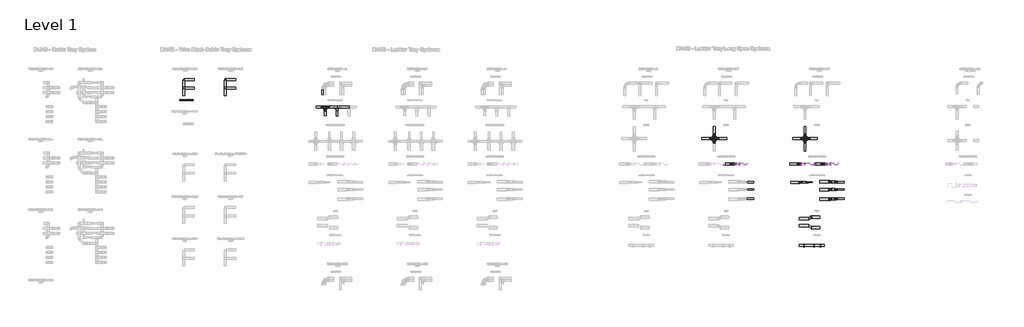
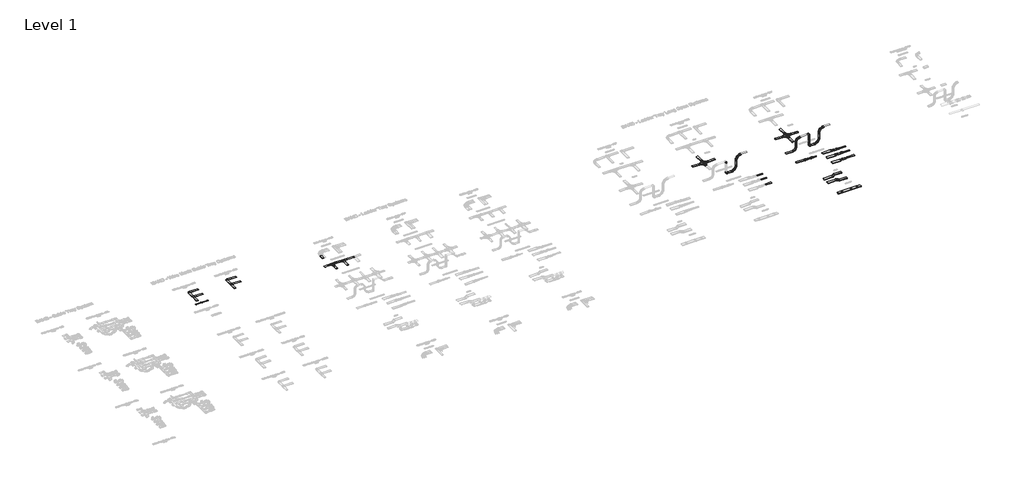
# One storey, part 16 of 106: 62 cable carrier fittings, 58 cable carrier segments.
"""IFC4 building model written with IfcOpenShell, lengths in millimetres."""

from ifc_helpers import new_model, si_unit, frame, origin, origin_with_axes, place, context, project, spatial, polyline, outline, extrude, transform, mapped, element, save
from components import cable_carrier_fitting_b6827417, cable_carrier_fitting_2209817d, cable_carrier_fitting_2d894193, cable_carrier_fitting_0f11f104, cable_carrier_fitting_d30d66bc, cable_carrier_fitting_a9217249, cable_carrier_fitting_737cec81, cable_carrier_fitting_2a48b0f8, cable_carrier_fitting_b442654d, cable_carrier_fitting_4f3da76f, cable_carrier_fitting_9a2a8d5e, cable_carrier_fitting_043f85b0, cable_carrier_fitting_eae05feb, cable_carrier_fitting_052320e9, cable_carrier_fitting_d10d1ab3, cable_carrier_fitting_8b2eacbc, cable_carrier_fitting_82eef748, cable_carrier_fitting_c717f408, cable_carrier_fitting_2eae5a0e, cable_carrier_fitting_3ae1bb04, cable_carrier_fitting_b51c3b06, cable_carrier_fitting_2cd7f75b, cable_carrier_fitting_ef2239ab, cable_carrier_fitting_4f7538c2, cable_carrier_fitting_ecbd1058, cable_carrier_fitting_5c8b0443, cable_carrier_fitting_7d25663b, cable_carrier_fitting_9e888601, cable_carrier_fitting_4b9ec148, cable_carrier_fitting_a95698cb, cable_carrier_fitting_26a6f095, cable_carrier_fitting_3c9c408d, cable_carrier_fitting_75b1d624, cable_carrier_fitting_566616c6, lzs35_h35_88049798, lzs50_h35_31d5a90a

model = new_model("IFC4")

# Units and contexts
model_context = context("Model", 3, world=origin())
ifc_project = project(units=[si_unit("LENGTHUNIT", "METRE", prefix="MILLI")], contexts=[model_context])

# Site, building, storey
site = spatial("IfcSite", under=ifc_project)
building = spatial("IfcBuilding", under=site)
storey = spatial("IfcBuildingStorey", under=building, Name="Level 1", Elevation=0.0)

# Cable carrier fittings
placement = place(None, origin())
cable_carrier_fitting_shape = cable_carrier_fitting_b6827417(model_context)
element("IfcCableCarrierFitting", 1, ObjectType="BAKS_Mesh horizontal bend : KKSZ_H35", at=placement, inside=storey, context=model_context, shape_type="MappedRepresentation", body=[
    mapped(cable_carrier_fitting_shape, transform((12269.4167945, 69870.1887189, 17.5), x_axis=(-1.0, 0.0, 0.0), y_axis=(0.0, -1.0, 0.0), z_axis=(0.0, 0.0, 1.0))),
])
element("IfcCableCarrierFitting", 2, ObjectType="BAKS_Mesh horizontal bend : KKSZ_H35", at=placement, inside=storey, context=model_context, shape_type="MappedRepresentation", body=[
    mapped(cable_carrier_fitting_shape, transform((5569.4167945, 69870.1887189, 17.5), x_axis=(-1.0, 0.0, 0.0), y_axis=(0.0, -1.0, 0.0), z_axis=(0.0, 0.0, 1.0))),
])
cable_carrier_fitting_2_shape = cable_carrier_fitting_2209817d(model_context)
element("IfcCableCarrierFitting", 3, ObjectType="BAKS_Mesh horizontal tee : TKSZ_H35", at=placement, inside=storey, context=model_context, shape_type="MappedRepresentation", body=[
    mapped(cable_carrier_fitting_2_shape, transform((5569.4167945, 68493.1012189, 17.5), x_axis=(0.0, 1.0, 0.0), y_axis=(-1.0, 0.0, 0.0), z_axis=(0.0, 0.0, 1.0))),
])
element("IfcCableCarrierFitting", 4, ObjectType="BAKS_Mesh horizontal tee : TKSZ_H35", at=placement, inside=storey, context=model_context, shape_type="MappedRepresentation", body=[
    mapped(cable_carrier_fitting_2_shape, transform((12269.4167945, 68493.1012189, 17.5), x_axis=(0.0, 1.0, 0.0), y_axis=(-1.0, 0.0, 0.0), z_axis=(0.0, 0.0, 1.0))),
])
cable_carrier_fitting_3_shape = cable_carrier_fitting_2d894193(model_context)
element("IfcCableCarrierFitting", 5, ObjectType="BAKS_LD_CONN_Angle coupler bendable_LKU : LKUP_H45", at=placement, inside=storey, context=model_context, shape_type="MappedRepresentation", body=[
    mapped(cable_carrier_fitting_3_shape, transform((30180.7849338, 65255.924016, 32.5), x_axis=(1.0, 0.0, 0.0), y_axis=(0.0, 1.0, 0.0), z_axis=(0.0, 0.0, 1.0))),
])
element("IfcCableCarrierFitting", 6, ObjectType="BAKS_LD_CONN_Angle coupler bendable_LKU : LKUP_H45", at=placement, inside=storey, context=model_context, shape_type="MappedRepresentation", body=[
    mapped(cable_carrier_fitting_3_shape, transform((30480.7849338, 65255.924016, 32.5), x_axis=(0.0, 1.0, 0.0), y_axis=(-1.0, 0.0, 0.0), z_axis=(0.0, 0.0, 1.0))),
])
cable_carrier_fitting_4_shape = cable_carrier_fitting_0f11f104(model_context)
element("IfcCableCarrierFitting", 7, ObjectType="BAKS_LD_CONN_Addon connector_LDDK : LDDKP", at=placement, inside=storey, context=model_context, shape_type="MappedRepresentation", body=[
    mapped(cable_carrier_fitting_4_shape, transform((30180.7849338, 65255.924016, 55.0), x_axis=(1.0, 0.0, 0.0), y_axis=(0.0, 1.0, 0.0), z_axis=(0.0, 0.0, 1.0))),
])
cable_carrier_fitting_5_shape = cable_carrier_fitting_d30d66bc(model_context)
element("IfcCableCarrierFitting", 8, ObjectType="BAKS_LD_TEE_Ladder horizontal tee_TD : TDP_H45", at=placement, inside=storey, context=model_context, shape_type="MappedRepresentation", body=[
    mapped(cable_carrier_fitting_5_shape, transform((28402.3039726, 65405.924016, 55.0), x_axis=(1.0, 0.0, 0.0), y_axis=(0.0, 1.0, 0.0), z_axis=(0.0, 0.0, 1.0))),
])
cable_carrier_fitting_6_shape = cable_carrier_fitting_a9217249(model_context)
element("IfcCableCarrierFitting", 9, ObjectType="BAKS_LD_CONN_Addon connector_LDDK : LDDKP", at=placement, inside=storey, context=model_context, shape_type="MappedRepresentation", body=[
    mapped(cable_carrier_fitting_6_shape, transform((30480.7849338, 65255.924016, 55.0), x_axis=(-1.0, 0.0, 0.0), y_axis=(0.0, -1.0, 0.0), z_axis=(0.0, 0.0, 1.0))),
])
cable_carrier_fitting_7_shape = cable_carrier_fitting_737cec81(model_context)
element("IfcCableCarrierFitting", 10, ObjectType="BAKS_LDLS_CONN_Straight connector_LSSU : LSSUC_H100", at=placement, inside=storey, context=model_context, shape_type="MappedRepresentation", body=[
    mapped(cable_carrier_fitting_7_shape, transform((105835.3508196, 42822.0684511, 55.0), x_axis=(1.0, 0.0, 0.0), y_axis=(0.0, 1.0, 0.0), z_axis=(0.0, 0.0, 1.0))),
])
element("IfcCableCarrierFitting", 11, ObjectType="BAKS_LDLS_CONN_Straight connector_LSSU : LSSUC_H100", at=placement, inside=storey, context=model_context, shape_type="MappedRepresentation", body=[
    mapped(cable_carrier_fitting_7_shape, transform((107422.8508196, 42822.0684511, 55.0), x_axis=(1.0, 0.0, 0.0), y_axis=(0.0, 1.0, 0.0), z_axis=(0.0, 0.0, 1.0))),
])
element("IfcCableCarrierFitting", 12, ObjectType="BAKS_LDLS_CONN_Straight connector_LSSU : LSSUC_H100", at=placement, inside=storey, context=model_context, shape_type="MappedRepresentation", body=[
    mapped(cable_carrier_fitting_7_shape, transform((108515.3508196, 42822.0684511, 55.0), x_axis=(1.0, 0.0, 0.0), y_axis=(0.0, 1.0, 0.0), z_axis=(0.0, 0.0, 1.0))),
])
cable_carrier_fitting_8_shape = cable_carrier_fitting_2a48b0f8(model_context)
element("IfcCableCarrierFitting", 13, ObjectType="BAKS_LDLS_CONN_Straight connector_LSSU : LSSUC_H100", at=placement, inside=storey, context=model_context, shape_type="MappedRepresentation", body=[
    mapped(cable_carrier_fitting_8_shape, transform((105835.3508196, 43222.0684511, 55.0), x_axis=(1.0, 0.0, 0.0), y_axis=(0.0, 1.0, 0.0), z_axis=(0.0, 0.0, 1.0))),
])
element("IfcCableCarrierFitting", 14, ObjectType="BAKS_LDLS_CONN_Straight connector_LSSU : LSSUC_H100", at=placement, inside=storey, context=model_context, shape_type="MappedRepresentation", body=[
    mapped(cable_carrier_fitting_8_shape, transform((107422.8508196, 43222.0684511, 55.0), x_axis=(1.0, 0.0, 0.0), y_axis=(0.0, 1.0, 0.0), z_axis=(0.0, 0.0, 1.0))),
])
element("IfcCableCarrierFitting", 15, ObjectType="BAKS_LDLS_CONN_Straight connector_LSSU : LSSUC_H100", at=placement, inside=storey, context=model_context, shape_type="MappedRepresentation", body=[
    mapped(cable_carrier_fitting_8_shape, transform((108515.3508196, 43222.0684511, 55.0), x_axis=(1.0, 0.0, 0.0), y_axis=(0.0, 1.0, 0.0), z_axis=(0.0, 0.0, 1.0))),
])
cable_carrier_fitting_9_shape = cable_carrier_fitting_b442654d(model_context)
element("IfcCableCarrierFitting", 16, ObjectType="BAKS_LDLS_CONN_Univarsal connector reduction_LUS : LUS_H100", at=placement, inside=storey, context=model_context, shape_type="MappedRepresentation", body=[
    mapped(cable_carrier_fitting_9_shape, transform((105009.3823889, 53231.6579459, 55.0), x_axis=(1.0, 0.0, 0.0), y_axis=(0.0, 1.0, 0.0), z_axis=(0.0, 0.0, 1.0))),
])
cable_carrier_fitting_10_shape = cable_carrier_fitting_4f3da76f(model_context)
element("IfcCableCarrierFitting", 17, ObjectType="BAKS_LDLS_CROSS_Horizontal cross over_CZDS : CZDSC_H100", at=placement, inside=storey, context=model_context, shape_type="MappedRepresentation", body=[
    mapped(cable_carrier_fitting_10_shape, transform((91294.8605695, 60296.344482, 55.0), x_axis=(0.0, 1.0, 0.0), y_axis=(-1.0, 0.0, 0.0), z_axis=(0.0, 0.0, 1.0))),
])
element("IfcCableCarrierFitting", 18, ObjectType="BAKS_LDLS_CROSS_Horizontal cross over_CZDS : CZDST_H100", at=placement, inside=storey, context=model_context, shape_type="MappedRepresentation", body=[
    mapped(cable_carrier_fitting_10_shape, transform((105994.8605695, 60296.344482, 55.0), x_axis=(0.0, 1.0, 0.0), y_axis=(-1.0, 0.0, 0.0), z_axis=(0.0, 0.0, 1.0))),
])
cable_carrier_fitting_11_shape = cable_carrier_fitting_9a2a8d5e(model_context)
element("IfcCableCarrierFitting", 19, ObjectType="BAKS_LDLS_BEND_Articulated connector for LLDS_LGSU : LGSUC_H100", at=placement, inside=storey, context=model_context, shape_type="MappedRepresentation", body=[
    mapped(cable_carrier_fitting_11_shape, transform((93962.1548019, 56056.9805429, 55.0), x_axis=(1.0, 0.0, 0.0), y_axis=(0.0, 0.0, 1.0), z_axis=(0.0, -1.0, 0.0))),
])
element("IfcCableCarrierFitting", 20, ObjectType="BAKS_LDLS_BEND_Articulated connector for LLDS_LGSU : LGSUC_H100", at=placement, inside=storey, context=model_context, shape_type="MappedRepresentation", body=[
    mapped(cable_carrier_fitting_11_shape, transform((94645.1675038, 56356.9805429, 2053.6237578), x_axis=(0.0, 0.0, 1.0), y_axis=(1.0, 0.0, 0.0), z_axis=(0.0, 1.0, 0.0))),
])
cable_carrier_fitting_12_shape = cable_carrier_fitting_043f85b0(model_context)
element("IfcCableCarrierFitting", 21, ObjectType="BAKS_LDLS_BEND_Articulated connector for LLDS_LGSU : LGSUC_H100", at=placement, inside=storey, context=model_context, shape_type="MappedRepresentation", body=[
    mapped(cable_carrier_fitting_12_shape, transform((94645.1675038, 56056.9805429, 738.0127019), x_axis=(0.49999999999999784, 0.0, 0.8660254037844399), y_axis=(-0.8660254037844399, 0.0, 0.49999999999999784), z_axis=(0.0, -1.0, 0.0))),
])
element("IfcCableCarrierFitting", 22, ObjectType="BAKS_LDLS_BEND_Articulated connector for LLDS_LGSU : LGSUC_H100", at=placement, inside=storey, context=model_context, shape_type="MappedRepresentation", body=[
    mapped(cable_carrier_fitting_12_shape, transform((95328.1802057, 56356.9805429, 2736.6364597), x_axis=(0.8660254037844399, 0.0, 0.49999999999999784), y_axis=(0.49999999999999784, 0.0, -0.8660254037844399), z_axis=(0.0, 1.0, 0.0))),
])
cable_carrier_fitting_13_shape = cable_carrier_fitting_eae05feb(model_context)
element("IfcCableCarrierFitting", 23, ObjectType="BAKS_LDLS_BEND_Articulated connector for LLDS_LGSU : LGSUC_H100", at=placement, inside=storey, context=model_context, shape_type="MappedRepresentation", body=[
    mapped(cable_carrier_fitting_13_shape, transform((94645.1675038, 56356.9805429, 738.0127019), x_axis=(0.4999999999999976, 0.0, 0.86602540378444), y_axis=(0.86602540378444, 0.0, -0.4999999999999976), z_axis=(0.0, 1.0, 0.0))),
])
element("IfcCableCarrierFitting", 24, ObjectType="BAKS_LDLS_BEND_Articulated connector for LLDS_LGSU : LGSUC_H100", at=placement, inside=storey, context=model_context, shape_type="MappedRepresentation", body=[
    mapped(cable_carrier_fitting_13_shape, transform((95328.1802057, 56056.9805429, 2736.6364597), x_axis=(0.86602540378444, 0.0, 0.4999999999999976), y_axis=(-0.4999999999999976, 0.0, 0.86602540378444), z_axis=(0.0, -1.0, 0.0))),
])
cable_carrier_fitting_14_shape = cable_carrier_fitting_052320e9(model_context)
element("IfcCableCarrierFitting", 25, ObjectType="BAKS_LDLS_BEND_Articulated connector for LLDS_LGSU : LGSUC_H100", at=placement, inside=storey, context=model_context, shape_type="MappedRepresentation", body=[
    mapped(cable_carrier_fitting_14_shape, transform((93962.1548019, 56356.9805429, 55.0), x_axis=(1.0, 0.0, 0.0), y_axis=(0.0, 0.0, -1.0), z_axis=(0.0, 1.0, 0.0))),
])
element("IfcCableCarrierFitting", 26, ObjectType="BAKS_LDLS_BEND_Articulated connector for LLDS_LGSU : LGSUC_H100", at=placement, inside=storey, context=model_context, shape_type="MappedRepresentation", body=[
    mapped(cable_carrier_fitting_14_shape, transform((94645.1675038, 56056.9805429, 2053.6237578), x_axis=(0.0, 0.0, 1.0), y_axis=(-1.0, 0.0, 0.0), z_axis=(0.0, -1.0, 0.0))),
])
cable_carrier_fitting_15_shape = cable_carrier_fitting_d10d1ab3(model_context)
element("IfcCableCarrierFitting", 27, ObjectType="BAKS_LDLS_BEND_Adjustable vertical bend element_ELDS : ELDSC_H100", at=placement, inside=storey, context=model_context, shape_type="MappedRepresentation", body=[
    mapped(cable_carrier_fitting_15_shape, transform((93962.1548019, 56206.9805429, 55.0), x_axis=(0.8660254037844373, 0.0, 0.5000000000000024), y_axis=(0.0, 1.0, 0.0), z_axis=(-0.5000000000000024, 0.0, 0.8660254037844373))),
])
element("IfcCableCarrierFitting", 28, ObjectType="BAKS_LDLS_BEND_Adjustable vertical bend element_ELDS : ELDSC_H100", at=placement, inside=storey, context=model_context, shape_type="MappedRepresentation", body=[
    mapped(cable_carrier_fitting_15_shape, transform((94645.1675038, 56206.9805429, 738.0127019), x_axis=(-0.49999999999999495, 0.0, -0.8660254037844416), y_axis=(0.0, -1.0, 0.0), z_axis=(-0.8660254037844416, 0.0, 0.49999999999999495))),
])
element("IfcCableCarrierFitting", 29, ObjectType="BAKS_LDLS_BEND_Adjustable vertical bend element_ELDS : ELDSC_H100", at=placement, inside=storey, context=model_context, shape_type="MappedRepresentation", body=[
    mapped(cable_carrier_fitting_15_shape, transform((94645.1675038, 56206.9805429, 2053.6237578), x_axis=(0.5000000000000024, 0.0, 0.8660254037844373), y_axis=(0.0, -1.0, 0.0), z_axis=(0.8660254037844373, 0.0, -0.5000000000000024))),
])
element("IfcCableCarrierFitting", 30, ObjectType="BAKS_LDLS_BEND_Adjustable vertical bend element_ELDS : ELDSC_H100", at=placement, inside=storey, context=model_context, shape_type="MappedRepresentation", body=[
    mapped(cable_carrier_fitting_15_shape, transform((95328.1802057, 56206.9805429, 2736.6364597), x_axis=(-0.8660254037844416, 0.0, -0.49999999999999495), y_axis=(0.0, 1.0, 0.0), z_axis=(0.49999999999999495, 0.0, -0.8660254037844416))),
])
cable_carrier_fitting_16_shape = cable_carrier_fitting_8b2eacbc(model_context)
element("IfcCableCarrierFitting", 31, ObjectType="BAKS_LDLS_CONN_Univarsal connector reduction_LUS : LUS_H100", at=placement, inside=storey, context=model_context, shape_type="MappedRepresentation", body=[
    mapped(cable_carrier_fitting_16_shape, transform((106109.3823889, 53231.6579459, 55.0), x_axis=(1.0, 0.0, 0.0), y_axis=(0.0, 1.0, 0.0), z_axis=(0.0, 0.0, 1.0))),
])
cable_carrier_fitting_17_shape = cable_carrier_fitting_82eef748(model_context)
element("IfcCableCarrierFitting", 32, ObjectType="BAKS_LDLS_CONN_Univarsal connector offset_LUS : LUS_H100", at=placement, inside=storey, context=model_context, shape_type="MappedRepresentation", body=[
    mapped(cable_carrier_fitting_17_shape, transform((106595.3508196, 47320.3591551, 55.0), x_axis=(1.0, 0.0, 0.0), y_axis=(0.0, 1.0, 0.0), z_axis=(0.0, 0.0, 1.0))),
])
cable_carrier_fitting_18_shape = cable_carrier_fitting_c717f408(model_context)
element("IfcCableCarrierFitting", 33, ObjectType="BAKS_LDLS_CONN_Univarsal connector offset_LUS : LUS_H100", at=placement, inside=storey, context=model_context, shape_type="MappedRepresentation", body=[
    mapped(cable_carrier_fitting_18_shape, transform((106595.3508196, 46220.3591551, 55.0), x_axis=(1.0, 0.0, 0.0), y_axis=(0.0, 1.0, 0.0), z_axis=(0.0, 0.0, 1.0))),
])
cable_carrier_fitting_19_shape = cable_carrier_fitting_2eae5a0e(model_context)
element("IfcCableCarrierFitting", 34, ObjectType="BAKS_LDLS_BEND_Articulated connector_LGSU : LGSUC_H100", at=placement, inside=storey, context=model_context, shape_type="MappedRepresentation", body=[
    mapped(cable_carrier_fitting_19_shape, transform((92925.1675038, 56056.9805429, 55.0), x_axis=(0.0, 0.0, -1.0), y_axis=(1.0, 0.0, 0.0), z_axis=(0.0, -1.0, 0.0))),
])
cable_carrier_fitting_20_shape = cable_carrier_fitting_3ae1bb04(model_context)
element("IfcCableCarrierFitting", 35, ObjectType="BAKS_LDLS_BEND_Articulated connector_LGSU : LGSUC_H100", at=placement, inside=storey, context=model_context, shape_type="MappedRepresentation", body=[
    mapped(cable_carrier_fitting_20_shape, transform((92925.1675038, 56056.9805429, 2235.0), x_axis=(1.0, 0.0, 0.0), y_axis=(0.0, 0.0, 1.0), z_axis=(0.0, -1.0, 0.0))),
])
element("IfcCableCarrierFitting", 36, ObjectType="BAKS_LDLS_BEND_Articulated connector_LGSU : LGSUC_H100", at=placement, inside=storey, context=model_context, shape_type="MappedRepresentation", body=[
    mapped(cable_carrier_fitting_20_shape, transform((92925.1675038, 56356.9805429, 55.0), x_axis=(0.0, 0.0, -1.0), y_axis=(-1.0, 0.0, 0.0), z_axis=(0.0, 1.0, 0.0))),
])
cable_carrier_fitting_21_shape = cable_carrier_fitting_b51c3b06(model_context)
element("IfcCableCarrierFitting", 37, ObjectType="BAKS_LDLS_BEND_Vertical bend 90deg internal_LWDS : LWDSM_H100", at=placement, inside=storey, context=model_context, shape_type="MappedRepresentation", body=[
    mapped(cable_carrier_fitting_21_shape, transform((105325.1675038, 56206.9805429, 55.0), x_axis=(1.0, 0.0, 0.0), y_axis=(0.0, 0.0, 1.0), z_axis=(0.0, -1.0, 0.0))),
])
element("IfcCableCarrierFitting", 38, ObjectType="BAKS_LDLS_BEND_Vertical bend 90deg external_LZDS : LZDSM_H100", at=placement, inside=storey, context=model_context, shape_type="MappedRepresentation", body=[
    mapped(cable_carrier_fitting_21_shape, transform((105325.1675038, 56206.9805429, 2235.0), x_axis=(0.0, 0.0, 1.0), y_axis=(1.0, 0.0, 0.0), z_axis=(0.0, 1.0, 0.0))),
])
cable_carrier_fitting_22_shape = cable_carrier_fitting_2cd7f75b(model_context)
element("IfcCableCarrierFitting", 39, ObjectType="BAKS_LDLS_BEND_Articulated connector_LGSU : LGSUT_H100", at=placement, inside=storey, context=model_context, shape_type="MappedRepresentation", body=[
    mapped(cable_carrier_fitting_22_shape, transform((107625.1675038, 56356.9805429, 2235.0), x_axis=(1.0, 0.0, 0.0), y_axis=(0.0, 0.0, -1.0), z_axis=(0.0, 1.0, 0.0))),
])
element("IfcCableCarrierFitting", 40, ObjectType="BAKS_LDLS_BEND_Articulated connector_LGSU : LGSUT_H100", at=placement, inside=storey, context=model_context, shape_type="MappedRepresentation", body=[
    mapped(cable_carrier_fitting_22_shape, transform((107625.1675038, 56056.9805429, 55.0), x_axis=(0.0, 0.0, -1.0), y_axis=(1.0, 0.0, 0.0), z_axis=(0.0, -1.0, 0.0))),
])
cable_carrier_fitting_23_shape = cable_carrier_fitting_ef2239ab(model_context)
element("IfcCableCarrierFitting", 41, ObjectType="BAKS_LDLS_BEND_Articulated connector_LGSU : LGSUT_H100", at=placement, inside=storey, context=model_context, shape_type="MappedRepresentation", body=[
    mapped(cable_carrier_fitting_23_shape, transform((107625.1675038, 56056.9805429, 2235.0), x_axis=(1.0, 0.0, 0.0), y_axis=(0.0, 0.0, 1.0), z_axis=(0.0, -1.0, 0.0))),
])
element("IfcCableCarrierFitting", 42, ObjectType="BAKS_LDLS_BEND_Articulated connector_LGSU : LGSUT_H100", at=placement, inside=storey, context=model_context, shape_type="MappedRepresentation", body=[
    mapped(cable_carrier_fitting_23_shape, transform((107625.1675038, 56356.9805429, 55.0), x_axis=(0.0, 0.0, -1.0), y_axis=(-1.0, 0.0, 0.0), z_axis=(0.0, 1.0, 0.0))),
])
cable_carrier_fitting_24_shape = cable_carrier_fitting_4f7538c2(model_context)
element("IfcCableCarrierFitting", 43, ObjectType="BAKS_LDLS_BEND_Articulated connector for LLDS_LGSU : LGSUT_H100", at=placement, inside=storey, context=model_context, shape_type="MappedRepresentation", body=[
    mapped(cable_carrier_fitting_24_shape, transform((108662.1548019, 56056.9805429, 55.0), x_axis=(1.0, 0.0, 0.0), y_axis=(0.0, 0.0, 1.0), z_axis=(0.0, -1.0, 0.0))),
])
element("IfcCableCarrierFitting", 44, ObjectType="BAKS_LDLS_BEND_Articulated connector for LLDS_LGSU : LGSUT_H100", at=placement, inside=storey, context=model_context, shape_type="MappedRepresentation", body=[
    mapped(cable_carrier_fitting_24_shape, transform((109345.1675038, 56356.9805429, 2053.6237578), x_axis=(0.0, 0.0, 1.0), y_axis=(1.0, 0.0, 0.0), z_axis=(0.0, 1.0, 0.0))),
])
cable_carrier_fitting_25_shape = cable_carrier_fitting_ecbd1058(model_context)
element("IfcCableCarrierFitting", 45, ObjectType="BAKS_LDLS_BEND_Articulated connector for LLDS_LGSU : LGSUT_H100", at=placement, inside=storey, context=model_context, shape_type="MappedRepresentation", body=[
    mapped(cable_carrier_fitting_25_shape, transform((109345.1675038, 56056.9805429, 738.0127019), x_axis=(0.49999999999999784, 0.0, 0.8660254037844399), y_axis=(-0.8660254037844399, 0.0, 0.49999999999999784), z_axis=(0.0, -1.0, 0.0))),
])
element("IfcCableCarrierFitting", 46, ObjectType="BAKS_LDLS_BEND_Articulated connector for LLDS_LGSU : LGSUT_H100", at=placement, inside=storey, context=model_context, shape_type="MappedRepresentation", body=[
    mapped(cable_carrier_fitting_25_shape, transform((110028.1802057, 56356.9805429, 2736.6364597), x_axis=(0.8660254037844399, 0.0, 0.49999999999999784), y_axis=(0.49999999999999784, 0.0, -0.8660254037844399), z_axis=(0.0, 1.0, 0.0))),
])
cable_carrier_fitting_26_shape = cable_carrier_fitting_5c8b0443(model_context)
element("IfcCableCarrierFitting", 47, ObjectType="BAKS_LDLS_BEND_Articulated connector for LLDS_LGSU : LGSUT_H100", at=placement, inside=storey, context=model_context, shape_type="MappedRepresentation", body=[
    mapped(cable_carrier_fitting_26_shape, transform((109345.1675038, 56356.9805429, 738.0127019), x_axis=(0.4999999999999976, 0.0, 0.86602540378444), y_axis=(0.86602540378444, 0.0, -0.4999999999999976), z_axis=(0.0, 1.0, 0.0))),
])
element("IfcCableCarrierFitting", 48, ObjectType="BAKS_LDLS_BEND_Articulated connector for LLDS_LGSU : LGSUT_H100", at=placement, inside=storey, context=model_context, shape_type="MappedRepresentation", body=[
    mapped(cable_carrier_fitting_26_shape, transform((110028.1802057, 56056.9805429, 2736.6364597), x_axis=(0.86602540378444, 0.0, 0.4999999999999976), y_axis=(-0.4999999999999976, 0.0, 0.86602540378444), z_axis=(0.0, -1.0, 0.0))),
])
cable_carrier_fitting_27_shape = cable_carrier_fitting_7d25663b(model_context)
element("IfcCableCarrierFitting", 49, ObjectType="BAKS_LDLS_BEND_Articulated connector for LLDS_LGSU : LGSUT_H100", at=placement, inside=storey, context=model_context, shape_type="MappedRepresentation", body=[
    mapped(cable_carrier_fitting_27_shape, transform((108662.1548019, 56356.9805429, 55.0), x_axis=(1.0, 0.0, 0.0), y_axis=(0.0, 0.0, -1.0), z_axis=(0.0, 1.0, 0.0))),
])
element("IfcCableCarrierFitting", 50, ObjectType="BAKS_LDLS_BEND_Articulated connector for LLDS_LGSU : LGSUT_H100", at=placement, inside=storey, context=model_context, shape_type="MappedRepresentation", body=[
    mapped(cable_carrier_fitting_27_shape, transform((109345.1675038, 56056.9805429, 2053.6237578), x_axis=(0.0, 0.0, 1.0), y_axis=(-1.0, 0.0, 0.0), z_axis=(0.0, -1.0, 0.0))),
])
cable_carrier_fitting_28_shape = cable_carrier_fitting_9e888601(model_context)
element("IfcCableCarrierFitting", 51, ObjectType="BAKS_LDLS_BEND_Adjustable vertical bend element_ELDS : ELDST_H100", at=placement, inside=storey, context=model_context, shape_type="MappedRepresentation", body=[
    mapped(cable_carrier_fitting_28_shape, transform((108662.1548019, 56206.9805429, 55.0), x_axis=(0.8660254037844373, 0.0, 0.5000000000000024), y_axis=(0.0, 1.0, 0.0), z_axis=(-0.5000000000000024, 0.0, 0.8660254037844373))),
])
element("IfcCableCarrierFitting", 52, ObjectType="BAKS_LDLS_BEND_Adjustable vertical bend element_ELDS : ELDST_H100", at=placement, inside=storey, context=model_context, shape_type="MappedRepresentation", body=[
    mapped(cable_carrier_fitting_28_shape, transform((109345.1675038, 56206.9805429, 738.0127019), x_axis=(-0.49999999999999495, 0.0, -0.8660254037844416), y_axis=(0.0, -1.0, 0.0), z_axis=(-0.8660254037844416, 0.0, 0.49999999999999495))),
])
element("IfcCableCarrierFitting", 53, ObjectType="BAKS_LDLS_BEND_Adjustable vertical bend element_ELDS : ELDST_H100", at=placement, inside=storey, context=model_context, shape_type="MappedRepresentation", body=[
    mapped(cable_carrier_fitting_28_shape, transform((109345.1675038, 56206.9805429, 2053.6237578), x_axis=(0.5000000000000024, 0.0, 0.8660254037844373), y_axis=(0.0, -1.0, 0.0), z_axis=(0.8660254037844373, 0.0, -0.5000000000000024))),
])
element("IfcCableCarrierFitting", 54, ObjectType="BAKS_LDLS_BEND_Adjustable vertical bend element_ELDS : ELDST_H100", at=placement, inside=storey, context=model_context, shape_type="MappedRepresentation", body=[
    mapped(cable_carrier_fitting_28_shape, transform((110028.1802057, 56206.9805429, 2736.6364597), x_axis=(-0.8660254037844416, 0.0, -0.49999999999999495), y_axis=(0.0, 1.0, 0.0), z_axis=(0.49999999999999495, 0.0, -0.8660254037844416))),
])
cable_carrier_fitting_29_shape = cable_carrier_fitting_4b9ec148(model_context)
element("IfcCableCarrierFitting", 55, ObjectType="BAKS_LDLS_RED_Straight reducer_RDS : R(S/L/P)DST_H100", at=placement, inside=storey, context=model_context, shape_type="MappedRepresentation", body=[
    mapped(cable_carrier_fitting_29_shape, transform((110696.5656993, 53307.8476348, 55.0), x_axis=(1.0, 0.0, 0.0), y_axis=(0.0, 1.0, 0.0), z_axis=(0.0, 0.0, 1.0))),
])
cable_carrier_fitting_30_shape = cable_carrier_fitting_a95698cb(model_context)
element("IfcCableCarrierFitting", 56, ObjectType="BAKS_LDLS_RED_Straight reducer_RDS : R(S/L/P)DST_H100", at=placement, inside=storey, context=model_context, shape_type="MappedRepresentation", body=[
    mapped(cable_carrier_fitting_30_shape, transform((110385.5222547, 53307.8476348, 55.0), x_axis=(-1.0, 0.0, 0.0), y_axis=(0.0, -1.0, 0.0), z_axis=(0.0, 0.0, 1.0))),
])
cable_carrier_fitting_31_shape = cable_carrier_fitting_26a6f095(model_context)
element("IfcCableCarrierFitting", 57, ObjectType="BAKS_LDLS_RED_Straight reducer_RDS : R(S/L/P)DST_H100", at=placement, inside=storey, context=model_context, shape_type="MappedRepresentation", body=[
    mapped(cable_carrier_fitting_31_shape, transform((110696.5656993, 52057.8476348, 55.0), x_axis=(1.0, 0.0, 0.0), y_axis=(0.0, 1.0, 0.0), z_axis=(0.0, 0.0, 1.0))),
])
cable_carrier_fitting_32_shape = cable_carrier_fitting_3c9c408d(model_context)
element("IfcCableCarrierFitting", 58, ObjectType="BAKS_LDLS_RED_Straight reducer_RDS : R(S/L/P)DST_H100", at=placement, inside=storey, context=model_context, shape_type="MappedRepresentation", body=[
    mapped(cable_carrier_fitting_32_shape, transform((110385.5222547, 52057.8476348, 55.0), x_axis=(-1.0, 0.0, 0.0), y_axis=(0.0, -1.0, 0.0), z_axis=(0.0, 0.0, 1.0))),
])
cable_carrier_fitting_33_shape = cable_carrier_fitting_75b1d624(model_context)
element("IfcCableCarrierFitting", 59, ObjectType="BAKS_LDLS_RED_Straight reducer_RDS : R(S/L/P)DST_H100", at=placement, inside=storey, context=model_context, shape_type="MappedRepresentation", body=[
    mapped(cable_carrier_fitting_33_shape, transform((110645.5222547, 50521.6579459, 55.0), x_axis=(1.0, 0.0, 0.0), y_axis=(0.0, 1.0, 0.0), z_axis=(0.0, 0.0, 1.0))),
])
cable_carrier_fitting_34_shape = cable_carrier_fitting_566616c6(model_context)
element("IfcCableCarrierFitting", 60, ObjectType="BAKS_LDLS_RED_Straight reducer_RDS : R(S/L/P)DST_H100", at=placement, inside=storey, context=model_context, shape_type="MappedRepresentation", body=[
    mapped(cable_carrier_fitting_34_shape, transform((110385.5222547, 50521.6579459, 55.0), x_axis=(-1.0, 0.0, 0.0), y_axis=(0.0, -1.0, 0.0), z_axis=(0.0, 0.0, 1.0))),
])
lzs35_h35_shape = lzs35_h35_88049798(model_context)
element("IfcCableCarrierFitting", 61, ObjectType="BAKS_Snap-in connector_LZS : LZS35_H35", at=placement, inside=storey, context=model_context, shape_type="MappedRepresentation", body=[
    mapped(lzs35_h35_shape, transform((5932.4364107, 66596.8037185, 17.5), x_axis=(-1.0, 0.0, 0.0), y_axis=(0.0, -1.0, 0.0), z_axis=(0.0, 0.0, 1.0))),
])
lzs50_h35_shape = lzs50_h35_31d5a90a(model_context)
element("IfcCableCarrierFitting", 62, ObjectType="BAKS_Snap-in connector_LZS : LZS50_H35", at=placement, inside=storey, context=model_context, shape_type="MappedRepresentation", body=[
    mapped(lzs50_h35_shape, transform((5932.6864107, 66516.8037185, 17.5), x_axis=(-1.0, 0.0, 0.0), y_axis=(0.0, -1.0, 0.0), z_axis=(0.0, 0.0, 1.0))),
])

# Cable carrier segments
element("IfcCableCarrierSegment", 63, ObjectType="BAKS - Wire mesh tray H35 (KDS)", at=placement, inside=storey, context=model_context, shape_type="SweptSolid", body=[
    extrude(outline(polyline([(5774.4167945, 68343.1012189), (5774.4167945, 68643.1012189), (7269.4167945, 68643.1012189), (7269.4167945, 68343.1012189), (5774.4167945, 68343.1012189)])), origin_with_axes(), (0.0, 0.0, 1.0), 35.0),
])
element("IfcCableCarrierSegment", 64, ObjectType="BAKS - Wire mesh tray H35 (KDS)", at=placement, inside=storey, context=model_context, shape_type="SweptSolid", body=[
    extrude(outline(polyline([(5419.4167945, 68288.1012189), (5719.4167945, 68288.1012189), (5719.4167945, 67270.1887189), (5419.4167945, 67270.1887189), (5419.4167945, 68288.1012189)])), origin_with_axes(), (0.0, 0.0, 1.0), 35.0),
])
element("IfcCableCarrierSegment", 65, ObjectType="BAKS - Wire mesh tray H35 (KSG)", at=placement, inside=storey, context=model_context, shape_type="SweptSolid", body=[
    extrude(outline(polyline([(12423.5917945, 69720.1887189), (12423.5917945, 70020.1887189), (13969.4167945, 70020.1887189), (13969.4167945, 69720.1887189), (12423.5917945, 69720.1887189)])), origin_with_axes(), (0.0, 0.0, 1.0), 35.0),
])
element("IfcCableCarrierSegment", 66, ObjectType="BAKS - Wire mesh tray H35 (KSG)", at=placement, inside=storey, context=model_context, shape_type="SweptSolid", body=[
    extrude(outline(polyline([(12474.4167945, 68343.1012189), (12474.4167945, 68643.1012189), (13969.4167945, 68643.1012189), (13969.4167945, 68343.1012189), (12474.4167945, 68343.1012189)])), origin_with_axes(), (0.0, 0.0, 1.0), 35.0),
])
element("IfcCableCarrierSegment", 67, ObjectType="BAKS - Wire mesh tray H35 (KSG)", at=placement, inside=storey, context=model_context, shape_type="SweptSolid", body=[
    extrude(outline(polyline([(12119.4167945, 68288.1012189), (12419.4167945, 68288.1012189), (12419.4167945, 67270.1887189), (12119.4167945, 67270.1887189), (12119.4167945, 68288.1012189)])), origin_with_axes(), (0.0, 0.0, 1.0), 35.0),
])
element("IfcCableCarrierSegment", 68, ObjectType="BAKS - Wire mesh tray H35 (KDS)", at=placement, inside=storey, context=model_context, shape_type="SweptSolid", body=[
    extrude(outline(polyline([(5419.4167945, 69716.0137189), (5719.4167945, 69716.0137189), (5719.4167945, 68698.1012189), (5419.4167945, 68698.1012189), (5419.4167945, 69716.0137189)])), origin_with_axes(), (0.0, 0.0, 1.0), 35.0),
])
element("IfcCableCarrierSegment", 69, ObjectType="BAKS - Wire mesh tray H35 (KSG)", at=placement, inside=storey, context=model_context, shape_type="SweptSolid", body=[
    extrude(outline(polyline([(12119.4167945, 69716.0137189), (12419.4167945, 69716.0137189), (12419.4167945, 68698.1012189), (12119.4167945, 68698.1012189), (12119.4167945, 69716.0137189)])), origin_with_axes(), (0.0, 0.0, 1.0), 35.0),
])
element("IfcCableCarrierSegment", 70, ObjectType="BAKS - Wire mesh tray H35 (KDS)", at=placement, inside=storey, context=model_context, shape_type="SweptSolid", body=[
    extrude(outline(polyline([(7269.4167945, 70020.1887189), (7269.4167945, 69720.1887189), (5723.5917945, 69720.1887189), (5723.5917945, 70020.1887189), (7269.4167945, 70020.1887189)])), origin_with_axes(), (0.0, 0.0, 1.0), 35.0),
])
element("IfcCableCarrierSegment", 71, ObjectType="BAKS - Wire mesh tray H35 (KDS)", at=placement, inside=storey, context=model_context, shape_type="SweptSolid", body=[
    extrude(outline(polyline([(5942.9364107, 66579.3037185), (5942.9364107, 66614.3037185), (7063.9674908, 66614.3037185), (7063.9674908, 66579.3037185), (5942.9364107, 66579.3037185)])), origin_with_axes(), (0.0, 0.0, 1.0), 35.0),
])
element("IfcCableCarrierSegment", 72, ObjectType="BAKS - Wire mesh tray H35 (KDS)", at=placement, inside=storey, context=model_context, shape_type="SweptSolid", body=[
    extrude(outline(polyline([(4863.9674908, 66579.3037185), (4863.9674908, 66614.3037185), (5920.9364107, 66614.3037185), (5920.9364107, 66579.3037185), (4863.9674908, 66579.3037185)])), origin_with_axes(), (0.0, 0.0, 1.0), 35.0),
])
element("IfcCableCarrierSegment", 73, ObjectType="BAKS - Wire mesh tray H35 (KDS)", at=placement, inside=storey, context=model_context, shape_type="SweptSolid", body=[
    extrude(outline(polyline([(5943.1864107, 66491.8037185), (5943.1864107, 66541.8037185), (7063.9674908, 66541.8037185), (7063.9674908, 66491.8037185), (5943.1864107, 66491.8037185)])), origin_with_axes(), (0.0, 0.0, 1.0), 35.0),
])
element("IfcCableCarrierSegment", 74, ObjectType="BAKS - Wire mesh tray H35 (KDS)", at=placement, inside=storey, context=model_context, shape_type="SweptSolid", body=[
    extrude(outline(polyline([(4863.9674908, 66491.8037185), (4863.9674908, 66541.8037185), (5921.1864107, 66541.8037185), (5921.1864107, 66491.8037185), (4863.9674908, 66491.8037185)])), origin_with_axes(), (0.0, 0.0, 1.0), 35.0),
])
element("IfcCableCarrierSegment", 75, ObjectType="BAKS - Ladder H45 (DKD)", at=placement, inside=storey, context=model_context, shape_type="SweptSolid", body=[
    extrude(outline(polyline([(27829.6389398, 68187.6308868), (28129.6389398, 68187.6308868), (28129.6389398, 67434.0774962), (27829.6389398, 67434.0774962), (27829.6389398, 68187.6308868)])), frame((0.0, 0.0, 32.5), z_axis=(0.0, 0.0, 1.0), x_axis=(1.0, 0.0, 0.0)), (0.0, 0.0, 1.0), 45.0),
])
element("IfcCableCarrierSegment", 76, ObjectType="BAKS - Ladder H45 (DKD)", at=placement, inside=storey, context=model_context, shape_type="SweptSolid", body=[
    extrude(outline(polyline([(28252.3039726, 64685.924016), (28552.3039726, 64685.924016), (28552.3039726, 64005.924016), (28252.3039726, 64005.924016), (28252.3039726, 64685.924016)])), frame((0.0, 0.0, 32.5), z_axis=(0.0, 0.0, 1.0), x_axis=(1.0, 0.0, 0.0)), (0.0, 0.0, 1.0), 45.0),
])
element("IfcCableCarrierSegment", 77, ObjectType="BAKS - Ladder H45 (DKD)", at=placement, inside=storey, context=model_context, shape_type="SweptSolid", body=[
    extrude(outline(polyline([(26964.3823889, 65255.924016), (26964.3823889, 65555.924016), (27682.3039726, 65555.924016), (27682.3039726, 65255.924016), (26964.3823889, 65255.924016)])), frame((0.0, 0.0, 32.5), z_axis=(0.0, 0.0, 1.0), x_axis=(1.0, 0.0, 0.0)), (0.0, 0.0, 1.0), 45.0),
])
element("IfcCableCarrierSegment", 78, ObjectType="BAKS - Ladder H45 (DKD)", at=placement, inside=storey, context=model_context, shape_type="SweptSolid", body=[
    extrude(outline(polyline([(30180.7849338, 65225.924016), (30480.7849338, 65225.924016), (30480.7849338, 63955.924016), (30180.7849338, 63955.924016), (30180.7849338, 65225.924016)])), frame((0.0, 0.0, 32.5), z_axis=(0.0, 0.0, 1.0), x_axis=(1.0, 0.0, 0.0)), (0.0, 0.0, 1.0), 45.0),
])
element("IfcCableCarrierSegment", 79, ObjectType="BAKS - Ladder H45 (DKD)", at=placement, inside=storey, context=model_context, shape_type="SweptSolid", body=[
    extrude(outline(polyline([(29122.3039726, 65255.924016), (29122.3039726, 65555.924016), (30329.2849338, 65555.924016), (30329.2849338, 65255.924016), (29122.3039726, 65255.924016)])), frame((0.0, 0.0, 32.5), z_axis=(0.0, 0.0, 1.0), x_axis=(1.0, 0.0, 0.0)), (0.0, 0.0, 1.0), 45.0),
])
element("IfcCableCarrierSegment", 80, ObjectType="BAKS - Ladder H45 (DKD)", at=placement, inside=storey, context=model_context, shape_type="SweptSolid", body=[
    extrude(outline(polyline([(30332.2849338, 65255.924016), (30332.2849338, 65555.924016), (32287.9231102, 65555.924016), (32287.9231102, 65255.924016), (30332.2849338, 65255.924016)])), frame((0.0, 0.0, 32.5), z_axis=(0.0, 0.0, 1.0), x_axis=(1.0, 0.0, 0.0)), (0.0, 0.0, 1.0), 45.0),
])
element("IfcCableCarrierSegment", 81, ObjectType="BAKS - Ladder long span H100 (DSP)", at=placement, inside=storey, context=model_context, shape_type="SweptSolid", body=[
    extrude(outline(polyline([(92094.8605695, 60146.344482), (92094.8605695, 60446.344482), (93294.8605695, 60446.344482), (93294.8605695, 60146.344482), (92094.8605695, 60146.344482)])), frame((0.0, 0.0, 5.0), z_axis=(0.0, 0.0, 1.0), x_axis=(1.0, 0.0, 0.0)), (0.0, 0.0, 1.0), 100.0),
])
element("IfcCableCarrierSegment", 82, ObjectType="BAKS - Ladder long span H100 (DSP)", at=placement, inside=storey, context=model_context, shape_type="SweptSolid", body=[
    extrude(outline(polyline([(91444.8605695, 61096.344482), (91144.8605695, 61096.344482), (91144.8605695, 62296.344482), (91444.8605695, 62296.344482), (91444.8605695, 61096.344482)])), frame((0.0, 0.0, 5.0), z_axis=(0.0, 0.0, 1.0), x_axis=(1.0, 0.0, 0.0)), (0.0, 0.0, 1.0), 100.0),
])
element("IfcCableCarrierSegment", 83, ObjectType="BAKS - Ladder long span H100 (DSP)", at=placement, inside=storey, context=model_context, shape_type="SweptSolid", body=[
    extrude(outline(polyline([(89294.8605695, 60146.344482), (89294.8605695, 60446.344482), (90494.8605695, 60446.344482), (90494.8605695, 60146.344482), (89294.8605695, 60146.344482)])), frame((0.0, 0.0, 5.0), z_axis=(0.0, 0.0, 1.0), x_axis=(1.0, 0.0, 0.0)), (0.0, 0.0, 1.0), 100.0),
])
element("IfcCableCarrierSegment", 84, ObjectType="BAKS - Ladder long span H100 (DSP)", at=placement, inside=storey, context=model_context, shape_type="SweptSolid", body=[
    extrude(outline(polyline([(92950.1675038, 56056.9805429), (92950.1675038, 56356.9805429), (93862.1548019, 56356.9805429), (93862.1548019, 56056.9805429), (92950.1675038, 56056.9805429)])), frame((0.0, 0.0, 5.0), z_axis=(0.0, 0.0, 1.0), x_axis=(1.0, 0.0, 0.0)), (0.0, 0.0, 1.0), 100.0),
])
element("IfcCableCarrierSegment", 85, ObjectType="BAKS - Ladder long span H100 (DSP)", at=placement, inside=storey, context=model_context, shape_type="SweptSolid", body=[
    extrude(outline(polyline([(94695.1675038, 56056.9805429), (94595.1675038, 56056.9805429), (94595.1675038, 56356.9805429), (94695.1675038, 56356.9805429), (94695.1675038, 56056.9805429)])), frame((0.0, 0.0, 838.0127019), z_axis=(0.0, 0.0, 1.0), x_axis=(1.0, 0.0, 0.0)), (0.0, 0.0, 1.0), 1115.6110559),
])
element("IfcCableCarrierSegment", 86, ObjectType="BAKS - Ladder long span H100 (DSP)", at=placement, inside=storey, context=model_context, shape_type="SweptSolid", body=[
    extrude(outline(polyline([(95428.1802057, 56056.9805429), (95428.1802057, 56356.9805429), (96605.1675038, 56356.9805429), (96605.1675038, 56056.9805429), (95428.1802057, 56056.9805429)])), frame((0.0, 0.0, 2686.6364597), z_axis=(0.0, 0.0, 1.0), x_axis=(1.0, 0.0, 0.0)), (0.0, 0.0, 1.0), 100.0),
])
element("IfcCableCarrierSegment", 87, ObjectType="BAKS - Ladder long span H100 (DSC)", at=placement, inside=storey, context=model_context, shape_type="SweptSolid", body=[
    extrude(outline(polyline([(97665.5222547, 53357.8476348), (97665.5222547, 53157.8476348), (96616.5656993, 53157.8476348), (96616.5656993, 53357.8476348), (97665.5222547, 53357.8476348)])), frame((0.0, 0.0, 5.0), z_axis=(0.0, 0.0, 1.0), x_axis=(1.0, 0.0, 0.0)), (0.0, 0.0, 1.0), 100.0),
])
element("IfcCableCarrierSegment", 88, ObjectType="BAKS - Ladder long span H100 (DSC)", at=placement, inside=storey, context=model_context, shape_type="SweptSolid", body=[
    extrude(outline(polyline([(97665.5222547, 52157.8476348), (97665.5222547, 51957.8476348), (96616.5656993, 51957.8476348), (96616.5656993, 52157.8476348), (97665.5222547, 52157.8476348)])), frame((0.0, 0.0, 5.0), z_axis=(0.0, 0.0, 1.0), x_axis=(1.0, 0.0, 0.0)), (0.0, 0.0, 1.0), 100.0),
])
element("IfcCableCarrierSegment", 89, ObjectType="BAKS - Ladder long span H100 (DSC)", at=placement, inside=storey, context=model_context, shape_type="SweptSolid", body=[
    extrude(outline(polyline([(97665.5222547, 50671.6579459), (97665.5222547, 50471.6579459), (96565.5222547, 50471.6579459), (96565.5222547, 50671.6579459), (97665.5222547, 50671.6579459)])), frame((0.0, 0.0, 5.0), z_axis=(0.0, 0.0, 1.0), x_axis=(1.0, 0.0, 0.0)), (0.0, 0.0, 1.0), 100.0),
])
element("IfcCableCarrierSegment", 90, ObjectType="BAKS - Ladder long span H100 (DST)", at=placement, inside=storey, context=model_context, shape_type="SweptSolid", body=[
    extrude(outline(polyline([(103664.3823889, 53081.6579459), (103664.3823889, 53381.6579459), (105054.3823889, 53381.6579459), (105054.3823889, 53081.6579459), (103664.3823889, 53081.6579459)])), frame((0.0, 0.0, 5.0), z_axis=(0.0, 0.0, 1.0), x_axis=(1.0, 0.0, 0.0)), (0.0, 0.0, 1.0), 100.0),
])
element("IfcCableCarrierSegment", 91, ObjectType="BAKS - Ladder long span H100 (DST)", at=placement, inside=storey, context=model_context, shape_type="SweptSolid", body=[
    extrude(outline(polyline([(105564.3823889, 53131.6579459), (105564.3823889, 53331.6579459), (106154.3823889, 53331.6579459), (106154.3823889, 53131.6579459), (105564.3823889, 53131.6579459)])), frame((0.0, 0.0, 5.0), z_axis=(0.0, 0.0, 1.0), x_axis=(1.0, 0.0, 0.0)), (0.0, 0.0, 1.0), 100.0),
])
element("IfcCableCarrierSegment", 92, ObjectType="BAKS - Ladder long span H100 (DST)", at=placement, inside=storey, context=model_context, shape_type="SweptSolid", body=[
    extrude(outline(polyline([(106664.3823889, 53181.6579459), (106664.3823889, 53281.6579459), (107164.3823889, 53281.6579459), (107164.3823889, 53181.6579459), (106664.3823889, 53181.6579459)])), frame((0.0, 0.0, 5.0), z_axis=(0.0, 0.0, 1.0), x_axis=(1.0, 0.0, 0.0)), (0.0, 0.0, 1.0), 100.0),
])
element("IfcCableCarrierSegment", 93, ObjectType="BAKS - Ladder long span H100 (DST)", at=placement, inside=storey, context=model_context, shape_type="SweptSolid", body=[
    extrude(outline(polyline([(105095.3508196, 47120.3591551), (105095.3508196, 47520.3591551), (106595.3508196, 47520.3591551), (106595.3508196, 47120.3591551), (105095.3508196, 47120.3591551)])), frame((0.0, 0.0, 5.0), z_axis=(0.0, 0.0, 1.0), x_axis=(1.0, 0.0, 0.0)), (0.0, 0.0, 1.0), 100.0),
])
element("IfcCableCarrierSegment", 94, ObjectType="BAKS - Ladder long span H100 (DST)", at=placement, inside=storey, context=model_context, shape_type="SweptSolid", body=[
    extrude(outline(polyline([(107055.3508196, 47420.3591551), (107055.3508196, 47820.3591551), (108365.5222547, 47820.3591551), (108365.5222547, 47420.3591551), (107055.3508196, 47420.3591551)])), frame((0.0, 0.0, 5.0), z_axis=(0.0, 0.0, 1.0), x_axis=(1.0, 0.0, 0.0)), (0.0, 0.0, 1.0), 100.0),
])
element("IfcCableCarrierSegment", 95, ObjectType="BAKS - Ladder long span H100 (DST)", at=placement, inside=storey, context=model_context, shape_type="SweptSolid", body=[
    extrude(outline(polyline([(105095.3508196, 46020.3591551), (105095.3508196, 46420.3591551), (106595.3508196, 46420.3591551), (106595.3508196, 46020.3591551), (105095.3508196, 46020.3591551)])), frame((0.0, 0.0, 5.0), z_axis=(0.0, 0.0, 1.0), x_axis=(1.0, 0.0, 0.0)), (0.0, 0.0, 1.0), 100.0),
])
element("IfcCableCarrierSegment", 96, ObjectType="BAKS - Ladder long span H100 (DST)", at=placement, inside=storey, context=model_context, shape_type="SweptSolid", body=[
    extrude(outline(polyline([(107055.3508196, 45720.3591551), (107055.3508196, 46120.3591551), (108365.5222547, 46120.3591551), (108365.5222547, 45720.3591551), (107055.3508196, 45720.3591551)])), frame((0.0, 0.0, 5.0), z_axis=(0.0, 0.0, 1.0), x_axis=(1.0, 0.0, 0.0)), (0.0, 0.0, 1.0), 100.0),
])
element("IfcCableCarrierSegment", 97, ObjectType="BAKS - Ladder long span H100 (DST)", at=placement, inside=storey, context=model_context, shape_type="SweptSolid", body=[
    extrude(outline(polyline([(106794.8605695, 60146.344482), (106794.8605695, 60446.344482), (107994.8605695, 60446.344482), (107994.8605695, 60146.344482), (106794.8605695, 60146.344482)])), frame((0.0, 0.0, 5.0), z_axis=(0.0, 0.0, 1.0), x_axis=(1.0, 0.0, 0.0)), (0.0, 0.0, 1.0), 100.0),
])
element("IfcCableCarrierSegment", 98, ObjectType="BAKS - Ladder long span H100 (DST)", at=placement, inside=storey, context=model_context, shape_type="SweptSolid", body=[
    extrude(outline(polyline([(105844.8605695, 59496.344482), (106144.8605695, 59496.344482), (106144.8605695, 58296.344482), (105844.8605695, 58296.344482), (105844.8605695, 59496.344482)])), frame((0.0, 0.0, 5.0), z_axis=(0.0, 0.0, 1.0), x_axis=(1.0, 0.0, 0.0)), (0.0, 0.0, 1.0), 100.0),
])
element("IfcCableCarrierSegment", 99, ObjectType="BAKS - Ladder long span H100 (DST)", at=placement, inside=storey, context=model_context, shape_type="SweptSolid", body=[
    extrude(outline(polyline([(106144.8605695, 61096.344482), (105844.8605695, 61096.344482), (105844.8605695, 62296.344482), (106144.8605695, 62296.344482), (106144.8605695, 61096.344482)])), frame((0.0, 0.0, 5.0), z_axis=(0.0, 0.0, 1.0), x_axis=(1.0, 0.0, 0.0)), (0.0, 0.0, 1.0), 100.0),
])
element("IfcCableCarrierSegment", 100, ObjectType="BAKS - Ladder long span H100 (DST)", at=placement, inside=storey, context=model_context, shape_type="SweptSolid", body=[
    extrude(outline(polyline([(103994.8605695, 60146.344482), (103994.8605695, 60446.344482), (105194.8605695, 60446.344482), (105194.8605695, 60146.344482), (103994.8605695, 60146.344482)])), frame((0.0, 0.0, 5.0), z_axis=(0.0, 0.0, 1.0), x_axis=(1.0, 0.0, 0.0)), (0.0, 0.0, 1.0), 100.0),
])
element("IfcCableCarrierSegment", 101, ObjectType="BAKS - Ladder long span H100 (DST)", at=placement, inside=storey, context=model_context, shape_type="SweptSolid", body=[
    extrude(outline(polyline([(103525.1675038, 56056.9805429), (103525.1675038, 56356.9805429), (104625.1675038, 56356.9805429), (104625.1675038, 56056.9805429), (103525.1675038, 56056.9805429)])), frame((0.0, 0.0, 5.0), z_axis=(0.0, 0.0, 1.0), x_axis=(1.0, 0.0, 0.0)), (0.0, 0.0, 1.0), 100.0),
])
element("IfcCableCarrierSegment", 102, ObjectType="BAKS - Ladder long span H100 (DST)", at=placement, inside=storey, context=model_context, shape_type="SweptSolid", body=[
    extrude(outline(polyline([(105375.1675038, 56056.9805429), (105275.1675038, 56056.9805429), (105275.1675038, 56356.9805429), (105375.1675038, 56356.9805429), (105375.1675038, 56056.9805429)])), frame((0.0, 0.0, 755.0), z_axis=(0.0, 0.0, 1.0), x_axis=(1.0, 0.0, 0.0)), (0.0, 0.0, 1.0), 780.0),
])
element("IfcCableCarrierSegment", 103, ObjectType="BAKS - Ladder long span H100 (DST)", at=placement, inside=storey, context=model_context, shape_type="SweptSolid", body=[
    extrude(outline(polyline([(106025.1675038, 56056.9805429), (106025.1675038, 56356.9805429), (107600.1675038, 56356.9805429), (107600.1675038, 56056.9805429), (106025.1675038, 56056.9805429)])), frame((0.0, 0.0, 2185.0), z_axis=(0.0, 0.0, 1.0), x_axis=(1.0, 0.0, 0.0)), (0.0, 0.0, 1.0), 100.0),
])
element("IfcCableCarrierSegment", 104, ObjectType="BAKS - Ladder long span H100 (DST)", at=placement, inside=storey, context=model_context, shape_type="SweptSolid", body=[
    extrude(outline(polyline([(107575.1675038, 56056.9805429), (107575.1675038, 56356.9805429), (107675.1675038, 56356.9805429), (107675.1675038, 56056.9805429), (107575.1675038, 56056.9805429)])), frame((0.0, 0.0, 80.0), z_axis=(0.0, 0.0, 1.0), x_axis=(1.0, 0.0, 0.0)), (0.0, 0.0, 1.0), 2130.0),
])
element("IfcCableCarrierSegment", 105, ObjectType="BAKS - Ladder long span H100 (DST)", at=placement, inside=storey, context=model_context, shape_type="SweptSolid", body=[
    extrude(outline(polyline([(107650.1675038, 56056.9805429), (107650.1675038, 56356.9805429), (108562.1548019, 56356.9805429), (108562.1548019, 56056.9805429), (107650.1675038, 56056.9805429)])), frame((0.0, 0.0, 5.0), z_axis=(0.0, 0.0, 1.0), x_axis=(1.0, 0.0, 0.0)), (0.0, 0.0, 1.0), 100.0),
])
element("IfcCableCarrierSegment", 106, ObjectType="BAKS - Ladder long span H100 (DST)", at=placement, inside=storey, context=model_context, shape_type="SweptSolid", body=[
    extrude(outline(polyline([(109395.1675038, 56056.9805429), (109295.1675038, 56056.9805429), (109295.1675038, 56356.9805429), (109395.1675038, 56356.9805429), (109395.1675038, 56056.9805429)])), frame((0.0, 0.0, 838.0127019), z_axis=(0.0, 0.0, 1.0), x_axis=(1.0, 0.0, 0.0)), (0.0, 0.0, 1.0), 1115.6110559),
])
element("IfcCableCarrierSegment", 107, ObjectType="BAKS - Ladder long span H100 (DST)", at=placement, inside=storey, context=model_context, shape_type="SweptSolid", body=[
    extrude(outline(polyline([(110128.1802057, 56056.9805429), (110128.1802057, 56356.9805429), (111305.1675038, 56356.9805429), (111305.1675038, 56056.9805429), (110128.1802057, 56056.9805429)])), frame((0.0, 0.0, 2686.6364597), z_axis=(0.0, 0.0, 1.0), x_axis=(1.0, 0.0, 0.0)), (0.0, 0.0, 1.0), 100.0),
])
element("IfcCableCarrierSegment", 108, ObjectType="BAKS - Ladder long span H100 (DST)", at=placement, inside=storey, context=model_context, shape_type="SweptSolid", body=[
    extrude(outline(polyline([(110696.5656993, 53457.8476348), (110696.5656993, 53157.8476348), (110385.5222547, 53157.8476348), (110385.5222547, 53457.8476348), (110696.5656993, 53457.8476348)])), frame((0.0, 0.0, 5.0), z_axis=(0.0, 0.0, 1.0), x_axis=(1.0, 0.0, 0.0)), (0.0, 0.0, 1.0), 100.0),
])
element("IfcCableCarrierSegment", 109, ObjectType="BAKS - Ladder long span H100 (DST)", at=placement, inside=storey, context=model_context, shape_type="SweptSolid", body=[
    extrude(outline(polyline([(112365.5222547, 53357.8476348), (112365.5222547, 53157.8476348), (111316.5656993, 53157.8476348), (111316.5656993, 53357.8476348), (112365.5222547, 53357.8476348)])), frame((0.0, 0.0, 5.0), z_axis=(0.0, 0.0, 1.0), x_axis=(1.0, 0.0, 0.0)), (0.0, 0.0, 1.0), 100.0),
])
element("IfcCableCarrierSegment", 110, ObjectType="BAKS - Ladder long span H100 (DST)", at=placement, inside=storey, context=model_context, shape_type="SweptSolid", body=[
    extrude(outline(polyline([(108365.5222547, 53157.8476348), (108365.5222547, 53557.8476348), (109765.5222547, 53557.8476348), (109765.5222547, 53157.8476348), (108365.5222547, 53157.8476348)])), frame((0.0, 0.0, 5.0), z_axis=(0.0, 0.0, 1.0), x_axis=(1.0, 0.0, 0.0)), (0.0, 0.0, 1.0), 100.0),
])
element("IfcCableCarrierSegment", 111, ObjectType="BAKS - Ladder long span H100 (DST)", at=placement, inside=storey, context=model_context, shape_type="SweptSolid", body=[
    extrude(outline(polyline([(110696.5656993, 52207.8476348), (110696.5656993, 51907.8476348), (110385.5222547, 51907.8476348), (110385.5222547, 52207.8476348), (110696.5656993, 52207.8476348)])), frame((0.0, 0.0, 5.0), z_axis=(0.0, 0.0, 1.0), x_axis=(1.0, 0.0, 0.0)), (0.0, 0.0, 1.0), 100.0),
])
element("IfcCableCarrierSegment", 112, ObjectType="BAKS - Ladder long span H100 (DST)", at=placement, inside=storey, context=model_context, shape_type="SweptSolid", body=[
    extrude(outline(polyline([(112365.5222547, 52157.8476348), (112365.5222547, 51957.8476348), (111316.5656993, 51957.8476348), (111316.5656993, 52157.8476348), (112365.5222547, 52157.8476348)])), frame((0.0, 0.0, 5.0), z_axis=(0.0, 0.0, 1.0), x_axis=(1.0, 0.0, 0.0)), (0.0, 0.0, 1.0), 100.0),
])
element("IfcCableCarrierSegment", 113, ObjectType="BAKS - Ladder long span H100 (DST)", at=placement, inside=storey, context=model_context, shape_type="SweptSolid", body=[
    extrude(outline(polyline([(108365.5222547, 51857.8476348), (108365.5222547, 52257.8476348), (109765.5222547, 52257.8476348), (109765.5222547, 51857.8476348), (108365.5222547, 51857.8476348)])), frame((0.0, 0.0, 5.0), z_axis=(0.0, 0.0, 1.0), x_axis=(1.0, 0.0, 0.0)), (0.0, 0.0, 1.0), 100.0),
])
element("IfcCableCarrierSegment", 114, ObjectType="BAKS - Ladder long span H100 (DST)", at=placement, inside=storey, context=model_context, shape_type="SweptSolid", body=[
    extrude(outline(polyline([(110645.5222547, 50671.6579459), (110645.5222547, 50371.6579459), (110385.5222547, 50371.6579459), (110385.5222547, 50671.6579459), (110645.5222547, 50671.6579459)])), frame((0.0, 0.0, 5.0), z_axis=(0.0, 0.0, 1.0), x_axis=(1.0, 0.0, 0.0)), (0.0, 0.0, 1.0), 100.0),
])
element("IfcCableCarrierSegment", 115, ObjectType="BAKS - Ladder long span H100 (DST)", at=placement, inside=storey, context=model_context, shape_type="SweptSolid", body=[
    extrude(outline(polyline([(108365.5222547, 50271.6579459), (108365.5222547, 50671.6579459), (109765.5222547, 50671.6579459), (109765.5222547, 50271.6579459), (108365.5222547, 50271.6579459)])), frame((0.0, 0.0, 5.0), z_axis=(0.0, 0.0, 1.0), x_axis=(1.0, 0.0, 0.0)), (0.0, 0.0, 1.0), 100.0),
])
element("IfcCableCarrierSegment", 116, ObjectType="BAKS - Ladder long span H100 (DST)", at=placement, inside=storey, context=model_context, shape_type="SweptSolid", body=[
    extrude(outline(polyline([(112365.5222547, 50671.6579459), (112365.5222547, 50471.6579459), (111265.5222547, 50471.6579459), (111265.5222547, 50671.6579459), (112365.5222547, 50671.6579459)])), frame((0.0, 0.0, 5.0), z_axis=(0.0, 0.0, 1.0), x_axis=(1.0, 0.0, 0.0)), (0.0, 0.0, 1.0), 100.0),
])
element("IfcCableCarrierSegment", 117, ObjectType="BAKS - Ladder long span H100 (DST)", at=placement, inside=storey, context=model_context, shape_type="SweptSolid", body=[
    extrude(outline(polyline([(108522.8508196, 42822.0684511), (108522.8508196, 43222.0684511), (109095.3508196, 43222.0684511), (109095.3508196, 42822.0684511), (108522.8508196, 42822.0684511)])), frame((0.0, 0.0, 5.0), z_axis=(0.0, 0.0, 1.0), x_axis=(1.0, 0.0, 0.0)), (0.0, 0.0, 1.0), 100.0),
])
element("IfcCableCarrierSegment", 118, ObjectType="BAKS - Ladder long span H100 (DST)", at=placement, inside=storey, context=model_context, shape_type="SweptSolid", body=[
    extrude(outline(polyline([(105095.3508196, 42822.0684511), (105095.3508196, 43222.0684511), (105827.8508196, 43222.0684511), (105827.8508196, 42822.0684511), (105095.3508196, 42822.0684511)])), frame((0.0, 0.0, 5.0), z_axis=(0.0, 0.0, 1.0), x_axis=(1.0, 0.0, 0.0)), (0.0, 0.0, 1.0), 100.0),
])
element("IfcCableCarrierSegment", 119, ObjectType="BAKS - Ladder long span H100 (DST)", at=placement, inside=storey, context=model_context, shape_type="SweptSolid", body=[
    extrude(outline(polyline([(105842.8508196, 42822.0684511), (105842.8508196, 43222.0684511), (107415.3508196, 43222.0684511), (107415.3508196, 42822.0684511), (105842.8508196, 42822.0684511)])), frame((0.0, 0.0, 5.0), z_axis=(0.0, 0.0, 1.0), x_axis=(1.0, 0.0, 0.0)), (0.0, 0.0, 1.0), 100.0),
])
element("IfcCableCarrierSegment", 120, ObjectType="BAKS - Ladder long span H100 (DST)", at=placement, inside=storey, context=model_context, shape_type="SweptSolid", body=[
    extrude(outline(polyline([(107430.3508196, 42822.0684511), (107430.3508196, 43222.0684511), (108507.8508196, 43222.0684511), (108507.8508196, 42822.0684511), (107430.3508196, 42822.0684511)])), frame((0.0, 0.0, 5.0), z_axis=(0.0, 0.0, 1.0), x_axis=(1.0, 0.0, 0.0)), (0.0, 0.0, 1.0), 100.0),
])

save(model, "model.ifc")
